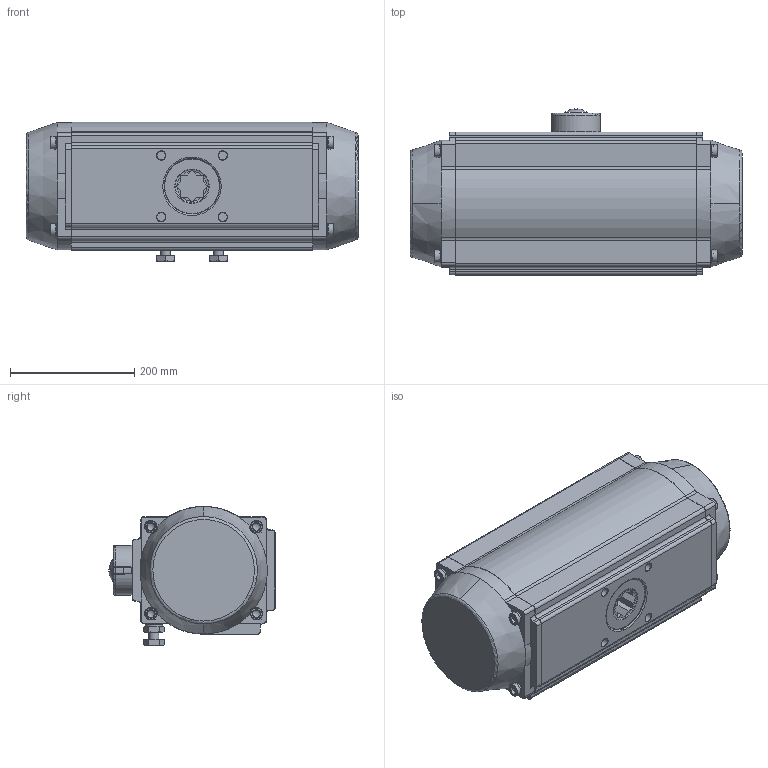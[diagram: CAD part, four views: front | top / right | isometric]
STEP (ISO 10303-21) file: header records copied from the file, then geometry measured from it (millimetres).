
FILE_DESCRIPTION(('STEP AP203'), '1');
FILE_NAME('3D_930-DA_SR-1293-36õ36', '', ('UNSPECIFIED'), ('UNSPECIFIED'), 'C3D Converter', 'C3D Toolkit', '');
FILE_SCHEMA(('CONFIG_CONTROL_DESIGN'));
Length unit declared in the file: millimetre
Assembly tree (41 placements, depth 3):
  (unnamed)
    (unnamed)
    (unnamed)
    (unnamed)
      (unnamed)
      (unnamed)
      (unnamed)
    (unnamed)
    (unnamed)
    (unnamed)  x2
    (unnamed)  x2
    (unnamed)
    (unnamed)
    (unnamed)  x8
    (unnamed)  x8
    (unnamed)
    (unnamed)
    (unnamed)
    (unnamed)
    (unnamed)
    (unnamed)
    (unnamed)
    (unnamed)
    (unnamed)
    (unnamed)
    (unnamed)
Bounding box: 534 x 267.47 x 223.84 mm (x, y, z)
Volume: 7742650.5 mm3; surface area: 1178246.8 mm2
Topology: 32 solids, 40 shells, 1310 faces, 3440 edges, 2279 vertices
Faces by surface type: plane 556, cylinder 429, bspline 160, cone 108, torus 40, sphere 17
Full cylindrical faces by diameter (mm): 2 x2, 4.2 x8, 5 x1, 6 x1, 6.5 x1, 9 x2, 10.5 x10, 11.4 x1, 12 x8, 13 x8, 14 x6, 16 x6, 18 x1, 20 x8, 20.3 x2, 28 x2, 30 x2, 44.2 x1, 46 x2, 50 x20, 60 x2, 70 x1, 84.4 x1, 86 x2, 90 x4, 189 x2, 190 x1, 197 x2
Entity records: 81029 total; most frequent: CARTESIAN_POINT 42248, ORIENTED_EDGE 5946, DIRECTION 5370, EDGE_CURVE 2974, AXIS2_PLACEMENT_3D 2116, VERTEX_POINT 2081, EDGE_LOOP 1432, FACE_BOUND 1229
